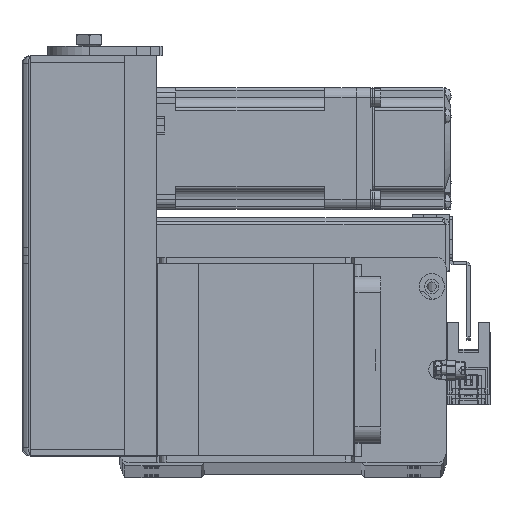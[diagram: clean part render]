
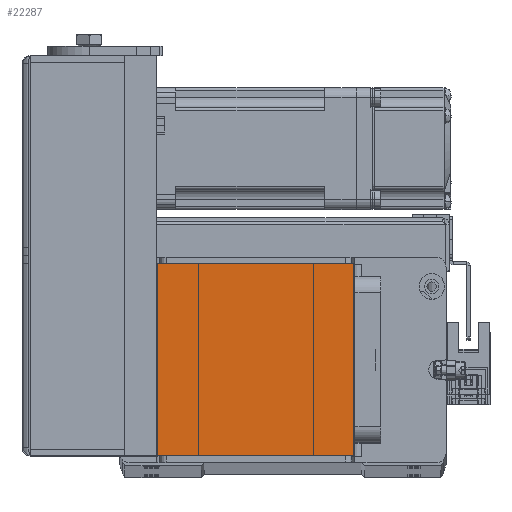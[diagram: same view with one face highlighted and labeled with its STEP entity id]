
A CAD part, top view. The second image highlights one B-rep face of the part: STEP entity #22287.
In plain terms, the highlighted planar face has unit normal (0, 0, 1) as drawn and (0, 1, 0) by its records, which use the part's own axes.
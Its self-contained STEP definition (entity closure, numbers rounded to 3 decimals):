
#1477 = CARTESIAN_POINT ( 'NONE',  ( -30.7, 88., -62. ) ) ;
#1551 = LINE ( 'NONE', #17296, #28582 ) ;
#1868 = EDGE_CURVE ( 'NONE', #39158, #13329, #26273, .T. ) ;
#3178 = ORIENTED_EDGE ( 'NONE', *, *, #34855, .F. ) ;
#5644 = DIRECTION ( 'NONE',  ( -1., 0., 0. ) ) ;
#7357 = DIRECTION ( 'NONE',  ( 1., 0., 0. ) ) ;
#8618 = EDGE_CURVE ( 'NONE', #19126, #32923, #9241, .T. ) ;
#9241 = LINE ( 'NONE', #9441, #31610 ) ;
#9441 = CARTESIAN_POINT ( 'NONE',  ( -31., 88., -2. ) ) ;
#11107 = CARTESIAN_POINT ( 'NONE',  ( -30.7, 88., -2. ) ) ;
#11709 = FACE_OUTER_BOUND ( 'NONE', #22899, .T. ) ;
#13329 = VERTEX_POINT ( 'NONE', #36050 ) ;
#16157 = EDGE_CURVE ( 'NONE', #39158, #32923, #19667, .T. ) ;
#16908 = DIRECTION ( 'NONE',  ( 0., 0., 1. ) ) ;
#17296 = CARTESIAN_POINT ( 'NONE',  ( 30.7, 88., -64. ) ) ;
#17328 = ORIENTED_EDGE ( 'NONE', *, *, #8618, .F. ) ;
#18256 = ORIENTED_EDGE ( 'NONE', *, *, #1868, .F. ) ;
#19126 = VERTEX_POINT ( 'NONE', #31491 ) ;
#19667 = LINE ( 'NONE', #31822, #25806 ) ;
#20903 = DIRECTION ( 'NONE',  ( -1., 0., 0. ) ) ;
#21313 = CARTESIAN_POINT ( 'NONE',  ( 30.7, 88., -64. ) ) ;
#22287 = ADVANCED_FACE ( 'NONE', ( #11709 ), #24090, .T. ) ;
#22899 = EDGE_LOOP ( 'NONE', ( #18256, #26910, #17328, #3178 ) ) ;
#24090 = PLANE ( 'NONE',  #32951 ) ;
#25806 = VECTOR ( 'NONE', #27731, 1000. ) ;
#26273 = LINE ( 'NONE', #34679, #37465 ) ;
#26910 = ORIENTED_EDGE ( 'NONE', *, *, #16157, .T. ) ;
#27731 = DIRECTION ( 'NONE',  ( 0., 0., 1. ) ) ;
#28582 = VECTOR ( 'NONE', #16908, 1000. ) ;
#31491 = CARTESIAN_POINT ( 'NONE',  ( 30.7, 88., -2. ) ) ;
#31610 = VECTOR ( 'NONE', #5644, 1000. ) ;
#31822 = CARTESIAN_POINT ( 'NONE',  ( -30.7, 88., -64. ) ) ;
#32923 = VERTEX_POINT ( 'NONE', #11107 ) ;
#32951 = AXIS2_PLACEMENT_3D ( 'NONE', #21313, #36110, #20903 ) ;
#34679 = CARTESIAN_POINT ( 'NONE',  ( -31., 88., -62. ) ) ;
#34855 = EDGE_CURVE ( 'NONE', #13329, #19126, #1551, .T. ) ;
#36050 = CARTESIAN_POINT ( 'NONE',  ( 30.7, 88., -62. ) ) ;
#36110 = DIRECTION ( 'NONE',  ( 0., 1., 0. ) ) ;
#37465 = VECTOR ( 'NONE', #7357, 1000. ) ;
#39158 = VERTEX_POINT ( 'NONE', #1477 ) ;
